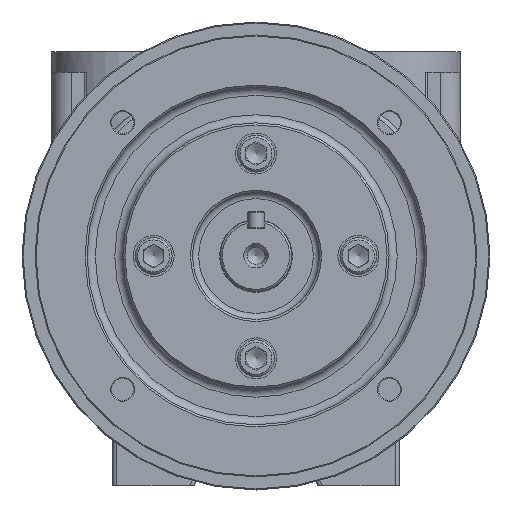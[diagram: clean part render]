
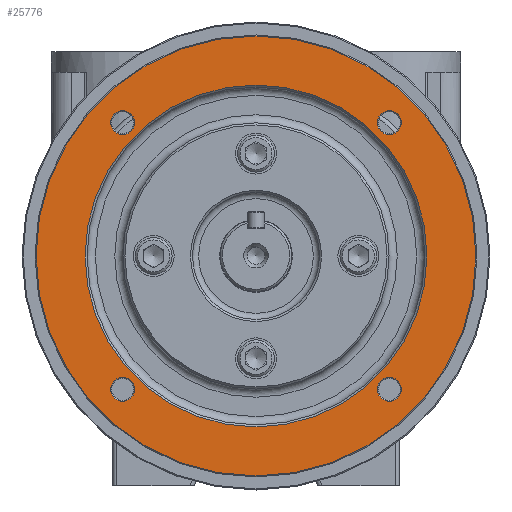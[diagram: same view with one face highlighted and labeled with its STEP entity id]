
A CAD part, top view. The second image highlights one B-rep face of the part: STEP entity #25776.
In plain terms, the highlighted planar face has unit normal (0, 0, 1).
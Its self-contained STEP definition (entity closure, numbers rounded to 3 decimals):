
#138 = DIRECTION ( 'NONE',  ( 0., 0., -1. ) ) ;
#1907 = AXIS2_PLACEMENT_3D ( 'NONE', #10749, #20917, #24264 ) ;
#1931 = CARTESIAN_POINT ( 'NONE',  ( -65.125, -55.125, 144.05 ) ) ;
#2028 = EDGE_CURVE ( 'NONE', #3431, #3431, #42804, .T. ) ;
#2033 = FACE_BOUND ( 'NONE', #9116, .T. ) ;
#3431 = VERTEX_POINT ( 'NONE', #9632 ) ;
#3493 = EDGE_CURVE ( 'NONE', #36231, #36231, #29751, .T. ) ;
#3789 = ORIENTED_EDGE ( 'NONE', *, *, #23465, .T. ) ;
#3835 = EDGE_LOOP ( 'NONE', ( #13015 ) ) ;
#4925 = VERTEX_POINT ( 'NONE', #18428 ) ;
#6160 = CARTESIAN_POINT ( 'NONE',  ( 0., 10., 144.05 ) ) ;
#8462 = DIRECTION ( 'NONE',  ( -1., 0., 0. ) ) ;
#9111 = FACE_BOUND ( 'NONE', #39389, .T. ) ;
#9116 = EDGE_LOOP ( 'NONE', ( #15264 ) ) ;
#9632 = CARTESIAN_POINT ( 'NONE',  ( 70.983, -55.125, 144.05 ) ) ;
#9971 = AXIS2_PLACEMENT_3D ( 'NONE', #1931, #42462, #12149 ) ;
#10689 = DIRECTION ( 'NONE',  ( 0., 0., -1. ) ) ;
#10749 = CARTESIAN_POINT ( 'NONE',  ( 0., 10., 144.05 ) ) ;
#10937 = DIRECTION ( 'NONE',  ( 0., 0., -1. ) ) ;
#11405 = CARTESIAN_POINT ( 'NONE',  ( 65.125, -55.125, 144.05 ) ) ;
#11797 = CARTESIAN_POINT ( 'NONE',  ( 0., 117.45, 144.05 ) ) ;
#12149 = DIRECTION ( 'NONE',  ( 1., 0., 0. ) ) ;
#12552 = AXIS2_PLACEMENT_3D ( 'NONE', #11797, #29466, #8462 ) ;
#12667 = FACE_BOUND ( 'NONE', #37779, .T. ) ;
#13015 = ORIENTED_EDGE ( 'NONE', *, *, #3493, .T. ) ;
#13506 = VERTEX_POINT ( 'NONE', #30746 ) ;
#15264 = ORIENTED_EDGE ( 'NONE', *, *, #23563, .F. ) ;
#16111 = DIRECTION ( 'NONE',  ( 0., 0., -1. ) ) ;
#17091 = DIRECTION ( 'NONE',  ( 1., 0., 0. ) ) ;
#17556 = ORIENTED_EDGE ( 'NONE', *, *, #39046, .T. ) ;
#17748 = CARTESIAN_POINT ( 'NONE',  ( 70.983, 75.125, 144.05 ) ) ;
#17855 = ORIENTED_EDGE ( 'NONE', *, *, #2028, .T. ) ;
#18428 = CARTESIAN_POINT ( 'NONE',  ( 83.5, 10., 144.05 ) ) ;
#19815 = CARTESIAN_POINT ( 'NONE',  ( -59.266, -55.125, 144.05 ) ) ;
#20287 = CIRCLE ( 'NONE', #36559, 107.45 ) ;
#20696 = CARTESIAN_POINT ( 'NONE',  ( 65.125, 75.125, 144.05 ) ) ;
#20891 = DIRECTION ( 'NONE',  ( 1., 0., 0. ) ) ;
#20917 = DIRECTION ( 'NONE',  ( 0., 0., 1. ) ) ;
#21717 = VERTEX_POINT ( 'NONE', #17748 ) ;
#23465 = EDGE_CURVE ( 'NONE', #21717, #21717, #37268, .T. ) ;
#23563 = EDGE_CURVE ( 'NONE', #4925, #4925, #36564, .T. ) ;
#23626 = DIRECTION ( 'NONE',  ( -1., 0., 0. ) ) ;
#23743 = CARTESIAN_POINT ( 'NONE',  ( -65.125, 75.125, 144.05 ) ) ;
#24031 = DIRECTION ( 'NONE',  ( 1., 0., 0. ) ) ;
#24264 = DIRECTION ( 'NONE',  ( 1., 0., 0. ) ) ;
#24838 = EDGE_LOOP ( 'NONE', ( #17556 ) ) ;
#25380 = EDGE_LOOP ( 'NONE', ( #26302 ) ) ;
#25776 = ADVANCED_FACE ( 'NONE', ( #25939, #2033, #9111, #29689, #38794, #12667 ), #36138, .F. ) ;
#25939 = FACE_OUTER_BOUND ( 'NONE', #25380, .T. ) ;
#26302 = ORIENTED_EDGE ( 'NONE', *, *, #37584, .F. ) ;
#26677 = CIRCLE ( 'NONE', #33785, 5.858 ) ;
#28659 = AXIS2_PLACEMENT_3D ( 'NONE', #11405, #10937, #20891 ) ;
#29466 = DIRECTION ( 'NONE',  ( 0., 0., -1. ) ) ;
#29689 = FACE_BOUND ( 'NONE', #24838, .T. ) ;
#29751 = CIRCLE ( 'NONE', #9971, 5.858 ) ;
#30746 = CARTESIAN_POINT ( 'NONE',  ( -59.266, 75.125, 144.05 ) ) ;
#33785 = AXIS2_PLACEMENT_3D ( 'NONE', #23743, #10689, #17091 ) ;
#36138 = PLANE ( 'NONE',  #12552 ) ;
#36231 = VERTEX_POINT ( 'NONE', #19815 ) ;
#36559 = AXIS2_PLACEMENT_3D ( 'NONE', #6160, #16111, #23626 ) ;
#36564 = CIRCLE ( 'NONE', #1907, 83.5 ) ;
#37268 = CIRCLE ( 'NONE', #40066, 5.858 ) ;
#37584 = EDGE_CURVE ( 'NONE', #40057, #40057, #20287, .T. ) ;
#37779 = EDGE_LOOP ( 'NONE', ( #17855 ) ) ;
#38794 = FACE_BOUND ( 'NONE', #3835, .T. ) ;
#39046 = EDGE_CURVE ( 'NONE', #13506, #13506, #26677, .T. ) ;
#39389 = EDGE_LOOP ( 'NONE', ( #3789 ) ) ;
#40057 = VERTEX_POINT ( 'NONE', #40944 ) ;
#40066 = AXIS2_PLACEMENT_3D ( 'NONE', #20696, #138, #24031 ) ;
#40944 = CARTESIAN_POINT ( 'NONE',  ( -107.45, 10., 144.05 ) ) ;
#42462 = DIRECTION ( 'NONE',  ( 0., 0., -1. ) ) ;
#42804 = CIRCLE ( 'NONE', #28659, 5.858 ) ;
